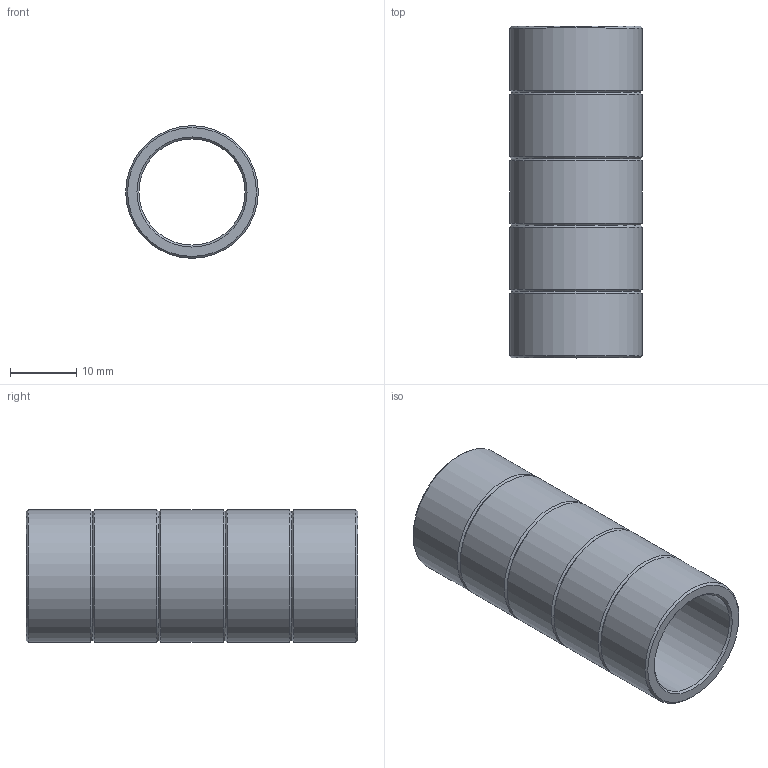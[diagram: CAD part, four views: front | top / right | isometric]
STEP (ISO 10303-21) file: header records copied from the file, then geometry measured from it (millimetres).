
FILE_DESCRIPTION(/* description */ ('Extension Tube'),/* implementation_level */ '2;1');
FILE_NAME(/* name */ 'ET-20-50.STEP',/* time_stamp */ '2026-02-10T14:39:17-05:00',/* author */ ('Design2'),/* organization */ ('CCS Design LLC'),/* preprocessor_version */ 'ST-DEVELOPER v20',/* originating_system */ 'Autodesk Inventor 2025',/* authorisation */ '');
FILE_SCHEMA (('AUTOMOTIVE_DESIGN { 1 0 10303 214 3 1 1 }'));
Length unit declared in the file: inch
Products named in the file (1): ET-20-50
Bounding box: 20 x 50 x 20 mm (x, y, z)
Volume: 5622.3 mm3; surface area: 5900.6 mm2
Topology: 1 solids, 1 shells, 20 faces, 47 edges, 29 vertices
Faces by surface type: cone 12, cylinder 6, plane 2
Full cylindrical faces by diameter (mm): 16 x1, 20 x5
Entity records: 633 total; most frequent: DIRECTION 118, CARTESIAN_POINT 97, ORIENTED_EDGE 94, AXIS2_PLACEMENT_3D 50, EDGE_CURVE 47, CIRCLE 29, VERTEX_POINT 29, EDGE_LOOP 22
